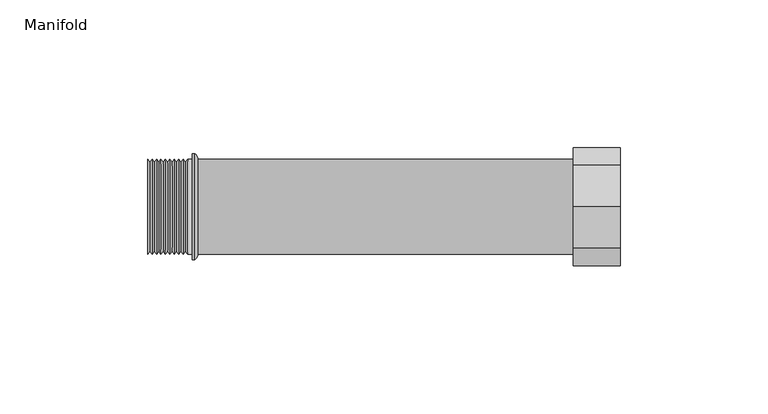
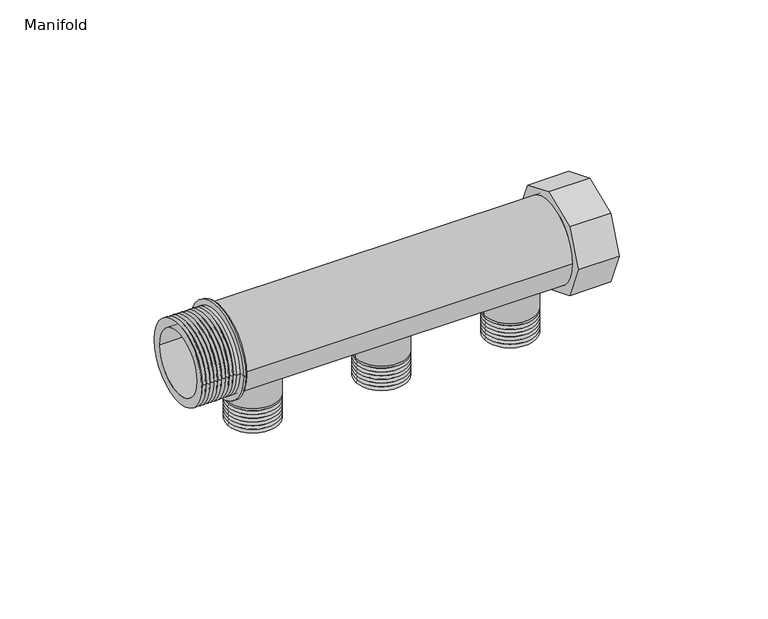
"""IFC4 building model written with IfcOpenShell, lengths in millimetres: valve geometry."""

from ifc_helpers import new_model, si_unit, point, frame, frame_2d, origin, origin_2d, place, context, project, spatial, polyline, circle_curve, ellipse_curve, trimmed, segment, composite_curve, outline, extrude, source, transform, mapped, element, save
from ifc_brep_helpers import plane_surface, cylinder_surface, revolved_surface, advanced_brep


def manifold_b658bd2c(model_context):
    return source(origin(), model_context, "Body", "SolidModel", [
        extrude(outline(composite_curve([segment(trimmed(circle_curve(frame_2d((129.0, 0.0)), 10.0), [point((119.0, 0.0))], [point((139.0, 0.0))], False, "CARTESIAN"), True, "CONTINUOUS"), segment(trimmed(circle_curve(frame_2d((129.0, 0.0)), 10.0), [point((139.0, 0.0))], [point((119.0, 0.0))], False, "CARTESIAN"), True, "CONTINUOUS")], self_intersect=False)), frame((0.0, 0.0, -22.0), z_axis=(0.0, 0.0, 1.0), x_axis=(1.0, 0.0, 0.0)), (0.0, 0.0, 1.0), 22.0),
        advanced_brep(
        [(119.0, 0.0, -32.0), (139.0, 0.0, -32.0), (129.0, 0.0, -32.0), (129.0, 0.0, -22.0), (139.0, 0.0, -22.0), (119.0, 0.0, -22.0), (120.0, 0.0, -31.2403523), (138.0, 0.0, -31.2403523), (119.0, 0.0, -30.4807046), (139.0, 0.0, -30.4807046), (120.0, 0.0, -29.721057), (138.0, 0.0, -29.721057), (119.0, 0.0, -28.9614093), (139.0, 0.0, -28.9614093), (120.0, 0.0, -28.2017616), (138.0, 0.0, -28.2017616), (119.0, 0.0, -27.4421139), (139.0, 0.0, -27.4421139), (120.0, 0.0, -26.6824663), (138.0, 0.0, -26.6824663), (119.0, 0.0, -25.9228186), (139.0, 0.0, -25.9228186), (120.0, 0.0, -25.1631709), (138.0, 0.0, -25.1631709), (119.0, 0.0, -24.4035232), (139.0, 0.0, -24.4035232), (120.0, 0.0, -23.6438756), (138.0, 0.0, -23.6438756), (119.0, 0.0, -22.8842279), (139.0, 0.0, -22.8842279)],
        [
            (0, 1, circle_curve(frame((129.0, 0.0, -32.0), z_axis=(0.0, 0.0, -1.0), x_axis=(1.0, 0.0, 0.0)), 10.0)),
            (1, 2),
            (2, 0),
            (1, 0, circle_curve(frame((129.0, 0.0, -32.0), z_axis=(0.0, 0.0, -1.0), x_axis=(1.0, 0.0, 0.0)), 10.0)),
            (3, 4),
            (4, 5, circle_curve(frame((129.0, 0.0, -22.0), z_axis=(0.0, 0.0, 1.0), x_axis=(1.0, 0.0, 0.0)), 10.0)),
            (5, 3),
            (5, 4, circle_curve(frame((129.0, 0.0, -22.0), z_axis=(0.0, 0.0, 1.0), x_axis=(1.0, 0.0, 0.0)), 10.0)),
            (6, 7, circle_curve(frame((129.0, 0.0, -31.2403523), z_axis=(0.0, 0.0, -1.0), x_axis=(1.0, 0.0, 0.0)), 9.0)),
            (7, 1),
            (0, 6),
            (7, 6, circle_curve(frame((129.0, 0.0, -31.2403523), z_axis=(0.0, 0.0, -1.0), x_axis=(1.0, 0.0, 0.0)), 9.0)),
            (8, 9, circle_curve(frame((129.0, 0.0, -30.4807046), z_axis=(0.0, 0.0, -1.0), x_axis=(1.0, 0.0, 0.0)), 10.0)),
            (9, 7),
            (6, 8),
            (9, 8, circle_curve(frame((129.0, 0.0, -30.4807046), z_axis=(0.0, 0.0, -1.0), x_axis=(1.0, 0.0, 0.0)), 10.0)),
            (10, 11, circle_curve(frame((129.0, 0.0, -29.721057), z_axis=(0.0, 0.0, -1.0), x_axis=(1.0, 0.0, 0.0)), 9.0)),
            (11, 9),
            (8, 10),
            (11, 10, circle_curve(frame((129.0, 0.0, -29.721057), z_axis=(0.0, 0.0, -1.0), x_axis=(1.0, 0.0, 0.0)), 9.0)),
            (12, 13, circle_curve(frame((129.0, 0.0, -28.9614093), z_axis=(0.0, 0.0, -1.0), x_axis=(1.0, 0.0, 0.0)), 10.0)),
            (13, 11),
            (10, 12),
            (13, 12, circle_curve(frame((129.0, 0.0, -28.9614093), z_axis=(0.0, 0.0, -1.0), x_axis=(1.0, 0.0, 0.0)), 10.0)),
            (14, 15, circle_curve(frame((129.0, 0.0, -28.2017616), z_axis=(0.0, 0.0, -1.0), x_axis=(1.0, 0.0, 0.0)), 9.0)),
            (15, 13),
            (12, 14),
            (15, 14, circle_curve(frame((129.0, 0.0, -28.2017616), z_axis=(0.0, 0.0, -1.0), x_axis=(1.0, 0.0, 0.0)), 9.0)),
            (16, 17, circle_curve(frame((129.0, 0.0, -27.4421139), z_axis=(0.0, 0.0, -1.0), x_axis=(1.0, 0.0, 0.0)), 10.0)),
            (17, 15),
            (14, 16),
            (17, 16, circle_curve(frame((129.0, 0.0, -27.4421139), z_axis=(0.0, 0.0, -1.0), x_axis=(1.0, 0.0, 0.0)), 10.0)),
            (18, 19, circle_curve(frame((129.0, 0.0, -26.6824663), z_axis=(0.0, 0.0, -1.0), x_axis=(1.0, 0.0, 0.0)), 9.0)),
            (19, 17),
            (16, 18),
            (19, 18, circle_curve(frame((129.0, 0.0, -26.6824663), z_axis=(0.0, 0.0, -1.0), x_axis=(1.0, 0.0, 0.0)), 9.0)),
            (20, 21, circle_curve(frame((129.0, 0.0, -25.9228186), z_axis=(0.0, 0.0, -1.0), x_axis=(1.0, 0.0, 0.0)), 10.0)),
            (21, 19),
            (18, 20),
            (21, 20, circle_curve(frame((129.0, 0.0, -25.9228186), z_axis=(0.0, 0.0, -1.0), x_axis=(1.0, 0.0, 0.0)), 10.0)),
            (22, 23, circle_curve(frame((129.0, 0.0, -25.1631709), z_axis=(0.0, 0.0, -1.0), x_axis=(1.0, 0.0, 0.0)), 9.0)),
            (23, 21),
            (20, 22),
            (23, 22, circle_curve(frame((129.0, 0.0, -25.1631709), z_axis=(0.0, 0.0, -1.0), x_axis=(1.0, 0.0, 0.0)), 9.0)),
            (24, 25, circle_curve(frame((129.0, 0.0, -24.4035232), z_axis=(0.0, 0.0, -1.0), x_axis=(1.0, 0.0, 0.0)), 10.0)),
            (25, 23),
            (22, 24),
            (25, 24, circle_curve(frame((129.0, 0.0, -24.4035232), z_axis=(0.0, 0.0, -1.0), x_axis=(1.0, 0.0, 0.0)), 10.0)),
            (26, 27, circle_curve(frame((129.0, 0.0, -23.6438756), z_axis=(0.0, 0.0, -1.0), x_axis=(1.0, 0.0, 0.0)), 9.0)),
            (27, 25),
            (24, 26),
            (27, 26, circle_curve(frame((129.0, 0.0, -23.6438756), z_axis=(0.0, 0.0, -1.0), x_axis=(1.0, 0.0, 0.0)), 9.0)),
            (28, 29, circle_curve(frame((129.0, 0.0, -22.8842279), z_axis=(0.0, 0.0, -1.0), x_axis=(1.0, 0.0, 0.0)), 10.0)),
            (29, 27),
            (26, 28),
            (29, 28, circle_curve(frame((129.0, 0.0, -22.8842279), z_axis=(0.0, 0.0, -1.0), x_axis=(1.0, 0.0, 0.0)), 10.0)),
            (4, 29),
            (28, 5),
        ],
        [
            plane_surface(frame((129.0, 0.0, -32.0), z_axis=(0.0, 0.0, -1.0), x_axis=(1.0, 0.0, 0.0))),
            plane_surface(frame((129.0, 0.0, -22.0), z_axis=(0.0, 0.0, 1.0), x_axis=(1.0, 0.0, 0.0))),
            revolved_surface(polyline([(139.0, 0.0, -32.0), (138.0, 0.0, -31.2403523)]), (129.0, 0.0, 2438.4), (0.0, 0.0, 1.0)),
            revolved_surface(polyline([(138.0, 0.0, -31.2403523), (139.0, 0.0, -30.4807046)]), (129.0, 0.0, 2438.4), (0.0, 0.0, 1.0)),
            revolved_surface(polyline([(139.0, 0.0, -30.4807046), (138.0, 0.0, -29.721057)]), (129.0, 0.0, 2438.4), (0.0, 0.0, 1.0)),
            revolved_surface(polyline([(138.0, 0.0, -29.721057), (139.0, 0.0, -28.9614093)]), (129.0, 0.0, 2438.4), (0.0, 0.0, 1.0)),
            revolved_surface(polyline([(139.0, 0.0, -28.9614093), (138.0, 0.0, -28.2017616)]), (129.0, 0.0, 2438.4), (0.0, 0.0, 1.0)),
            revolved_surface(polyline([(138.0, 0.0, -28.2017616), (139.0, 0.0, -27.4421139)]), (129.0, 0.0, 2438.4), (0.0, 0.0, 1.0)),
            revolved_surface(polyline([(139.0, 0.0, -27.4421139), (138.0, 0.0, -26.6824663)]), (129.0, 0.0, 2438.4), (0.0, 0.0, 1.0)),
            revolved_surface(polyline([(138.0, 0.0, -26.6824663), (139.0, 0.0, -25.9228186)]), (129.0, 0.0, 2438.4), (0.0, 0.0, 1.0)),
            revolved_surface(polyline([(139.0, 0.0, -25.9228186), (138.0, 0.0, -25.1631709)]), (129.0, 0.0, 2438.4), (0.0, 0.0, 1.0)),
            revolved_surface(polyline([(138.0, 0.0, -25.1631709), (139.0, 0.0, -24.4035232)]), (129.0, 0.0, 2438.4), (0.0, 0.0, 1.0)),
            revolved_surface(polyline([(139.0, 0.0, -24.4035232), (138.0, 0.0, -23.6438756)]), (129.0, 0.0, 2438.4), (0.0, 0.0, 1.0)),
            revolved_surface(polyline([(138.0, 0.0, -23.6438756), (139.0, 0.0, -22.8842279)]), (129.0, 0.0, 2438.4), (0.0, 0.0, 1.0)),
            cylinder_surface(frame((129.0, 0.0, 2438.4), z_axis=(0.0, 0.0, 1.0), x_axis=(1.0, 0.0, 0.0)), 10.0),
        ],
        [
            (0, [[1, 2, 3]]),
            (0, [[4, -3, -2]]),
            (1, [[5, 6, 7]]),
            (1, [[-7, 8, -5]]),
            (2, [[9, 10, -1, 11]]),
            (2, [[12, -11, -4, -10]]),
            (3, [[13, 14, -9, 15]]),
            (3, [[16, -15, -12, -14]]),
            (4, [[17, 18, -13, 19]]),
            (4, [[20, -19, -16, -18]]),
            (5, [[21, 22, -17, 23]]),
            (5, [[24, -23, -20, -22]]),
            (6, [[25, 26, -21, 27]]),
            (6, [[28, -27, -24, -26]]),
            (7, [[29, 30, -25, 31]]),
            (7, [[32, -31, -28, -30]]),
            (8, [[33, 34, -29, 35]]),
            (8, [[36, -35, -32, -34]]),
            (9, [[37, 38, -33, 39]]),
            (9, [[40, -39, -36, -38]]),
            (10, [[41, 42, -37, 43]]),
            (10, [[44, -43, -40, -42]]),
            (11, [[45, 46, -41, 47]]),
            (11, [[48, -47, -44, -46]]),
            (12, [[49, 50, -45, 51]]),
            (12, [[52, -51, -48, -50]]),
            (13, [[53, 54, -49, 55]]),
            (13, [[56, -55, -52, -54]]),
            (14, [[-6, 57, -53, 58]]),
            (14, [[-8, -58, -56, -57]]),
        ],
    ),
        extrude(outline(composite_curve([segment(trimmed(circle_curve(frame_2d((79.0, 0.0)), 10.0), [point((69.0, 0.0))], [point((89.0, 0.0))], False, "CARTESIAN"), True, "CONTINUOUS"), segment(trimmed(circle_curve(frame_2d((79.0, 0.0)), 10.0), [point((89.0, 0.0))], [point((69.0, 0.0))], False, "CARTESIAN"), True, "CONTINUOUS")], self_intersect=False)), frame((0.0, 0.0, -22.0), z_axis=(0.0, 0.0, 1.0), x_axis=(1.0, 0.0, 0.0)), (0.0, 0.0, 1.0), 22.0),
        advanced_brep(
        [(69.0, 0.0, -32.0), (89.0, 0.0, -32.0), (79.0, 0.0, -32.0), (79.0, 0.0, -22.0), (89.0, 0.0, -22.0), (69.0, 0.0, -22.0), (70.0, 0.0, -31.2403523), (88.0, 0.0, -31.2403523), (69.0, 0.0, -30.4807046), (89.0, 0.0, -30.4807046), (70.0, 0.0, -29.721057), (88.0, 0.0, -29.721057), (69.0, 0.0, -28.9614093), (89.0, 0.0, -28.9614093), (70.0, 0.0, -28.2017616), (88.0, 0.0, -28.2017616), (69.0, 0.0, -27.4421139), (89.0, 0.0, -27.4421139), (70.0, 0.0, -26.6824663), (88.0, 0.0, -26.6824663), (69.0, 0.0, -25.9228186), (89.0, 0.0, -25.9228186), (70.0, 0.0, -25.1631709), (88.0, 0.0, -25.1631709), (69.0, 0.0, -24.4035232), (89.0, 0.0, -24.4035232), (70.0, 0.0, -23.6438756), (88.0, 0.0, -23.6438756), (69.0, 0.0, -22.8842279), (89.0, 0.0, -22.8842279)],
        [
            (0, 1, circle_curve(frame((79.0, 0.0, -32.0), z_axis=(0.0, 0.0, -1.0), x_axis=(1.0, 0.0, 0.0)), 10.0)),
            (1, 2),
            (2, 0),
            (1, 0, circle_curve(frame((79.0, 0.0, -32.0), z_axis=(0.0, 0.0, -1.0), x_axis=(1.0, 0.0, 0.0)), 10.0)),
            (3, 4),
            (4, 5, circle_curve(frame((79.0, 0.0, -22.0), z_axis=(0.0, 0.0, 1.0), x_axis=(1.0, 0.0, 0.0)), 10.0)),
            (5, 3),
            (5, 4, circle_curve(frame((79.0, 0.0, -22.0), z_axis=(0.0, 0.0, 1.0), x_axis=(1.0, 0.0, 0.0)), 10.0)),
            (6, 7, circle_curve(frame((79.0, 0.0, -31.2403523), z_axis=(0.0, 0.0, -1.0), x_axis=(1.0, 0.0, 0.0)), 9.0)),
            (7, 1),
            (0, 6),
            (7, 6, circle_curve(frame((79.0, 0.0, -31.2403523), z_axis=(0.0, 0.0, -1.0), x_axis=(1.0, 0.0, 0.0)), 9.0)),
            (8, 9, circle_curve(frame((79.0, 0.0, -30.4807046), z_axis=(0.0, 0.0, -1.0), x_axis=(1.0, 0.0, 0.0)), 10.0)),
            (9, 7),
            (6, 8),
            (9, 8, circle_curve(frame((79.0, 0.0, -30.4807046), z_axis=(0.0, 0.0, -1.0), x_axis=(1.0, 0.0, 0.0)), 10.0)),
            (10, 11, circle_curve(frame((79.0, 0.0, -29.721057), z_axis=(0.0, 0.0, -1.0), x_axis=(1.0, 0.0, 0.0)), 9.0)),
            (11, 9),
            (8, 10),
            (11, 10, circle_curve(frame((79.0, 0.0, -29.721057), z_axis=(0.0, 0.0, -1.0), x_axis=(1.0, 0.0, 0.0)), 9.0)),
            (12, 13, circle_curve(frame((79.0, 0.0, -28.9614093), z_axis=(0.0, 0.0, -1.0), x_axis=(1.0, 0.0, 0.0)), 10.0)),
            (13, 11),
            (10, 12),
            (13, 12, circle_curve(frame((79.0, 0.0, -28.9614093), z_axis=(0.0, 0.0, -1.0), x_axis=(1.0, 0.0, 0.0)), 10.0)),
            (14, 15, circle_curve(frame((79.0, 0.0, -28.2017616), z_axis=(0.0, 0.0, -1.0), x_axis=(1.0, 0.0, 0.0)), 9.0)),
            (15, 13),
            (12, 14),
            (15, 14, circle_curve(frame((79.0, 0.0, -28.2017616), z_axis=(0.0, 0.0, -1.0), x_axis=(1.0, 0.0, 0.0)), 9.0)),
            (16, 17, circle_curve(frame((79.0, 0.0, -27.4421139), z_axis=(0.0, 0.0, -1.0), x_axis=(1.0, 0.0, 0.0)), 10.0)),
            (17, 15),
            (14, 16),
            (17, 16, circle_curve(frame((79.0, 0.0, -27.4421139), z_axis=(0.0, 0.0, -1.0), x_axis=(1.0, 0.0, 0.0)), 10.0)),
            (18, 19, circle_curve(frame((79.0, 0.0, -26.6824663), z_axis=(0.0, 0.0, -1.0), x_axis=(1.0, 0.0, 0.0)), 9.0)),
            (19, 17),
            (16, 18),
            (19, 18, circle_curve(frame((79.0, 0.0, -26.6824663), z_axis=(0.0, 0.0, -1.0), x_axis=(1.0, 0.0, 0.0)), 9.0)),
            (20, 21, circle_curve(frame((79.0, 0.0, -25.9228186), z_axis=(0.0, 0.0, -1.0), x_axis=(1.0, 0.0, 0.0)), 10.0)),
            (21, 19),
            (18, 20),
            (21, 20, circle_curve(frame((79.0, 0.0, -25.9228186), z_axis=(0.0, 0.0, -1.0), x_axis=(1.0, 0.0, 0.0)), 10.0)),
            (22, 23, circle_curve(frame((79.0, 0.0, -25.1631709), z_axis=(0.0, 0.0, -1.0), x_axis=(1.0, 0.0, 0.0)), 9.0)),
            (23, 21),
            (20, 22),
            (23, 22, circle_curve(frame((79.0, 0.0, -25.1631709), z_axis=(0.0, 0.0, -1.0), x_axis=(1.0, 0.0, 0.0)), 9.0)),
            (24, 25, circle_curve(frame((79.0, 0.0, -24.4035232), z_axis=(0.0, 0.0, -1.0), x_axis=(1.0, 0.0, 0.0)), 10.0)),
            (25, 23),
            (22, 24),
            (25, 24, circle_curve(frame((79.0, 0.0, -24.4035232), z_axis=(0.0, 0.0, -1.0), x_axis=(1.0, 0.0, 0.0)), 10.0)),
            (26, 27, circle_curve(frame((79.0, 0.0, -23.6438756), z_axis=(0.0, 0.0, -1.0), x_axis=(1.0, 0.0, 0.0)), 9.0)),
            (27, 25),
            (24, 26),
            (27, 26, circle_curve(frame((79.0, 0.0, -23.6438756), z_axis=(0.0, 0.0, -1.0), x_axis=(1.0, 0.0, 0.0)), 9.0)),
            (28, 29, circle_curve(frame((79.0, 0.0, -22.8842279), z_axis=(0.0, 0.0, -1.0), x_axis=(1.0, 0.0, 0.0)), 10.0)),
            (29, 27),
            (26, 28),
            (29, 28, circle_curve(frame((79.0, 0.0, -22.8842279), z_axis=(0.0, 0.0, -1.0), x_axis=(1.0, 0.0, 0.0)), 10.0)),
            (4, 29),
            (28, 5),
        ],
        [
            plane_surface(frame((79.0, 0.0, -32.0), z_axis=(0.0, 0.0, -1.0), x_axis=(1.0, 0.0, 0.0))),
            plane_surface(frame((79.0, 0.0, -22.0), z_axis=(0.0, 0.0, 1.0), x_axis=(1.0, 0.0, 0.0))),
            revolved_surface(polyline([(89.0, 0.0, -32.0), (88.0, 0.0, -31.2403523)]), (79.0, 0.0, 2438.4), (0.0, 0.0, 1.0)),
            revolved_surface(polyline([(88.0, 0.0, -31.2403523), (89.0, 0.0, -30.4807046)]), (79.0, 0.0, 2438.4), (0.0, 0.0, 1.0)),
            revolved_surface(polyline([(89.0, 0.0, -30.4807046), (88.0, 0.0, -29.721057)]), (79.0, 0.0, 2438.4), (0.0, 0.0, 1.0)),
            revolved_surface(polyline([(88.0, 0.0, -29.721057), (89.0, 0.0, -28.9614093)]), (79.0, 0.0, 2438.4), (0.0, 0.0, 1.0)),
            revolved_surface(polyline([(89.0, 0.0, -28.9614093), (88.0, 0.0, -28.2017616)]), (79.0, 0.0, 2438.4), (0.0, 0.0, 1.0)),
            revolved_surface(polyline([(88.0, 0.0, -28.2017616), (89.0, 0.0, -27.4421139)]), (79.0, 0.0, 2438.4), (0.0, 0.0, 1.0)),
            revolved_surface(polyline([(89.0, 0.0, -27.4421139), (88.0, 0.0, -26.6824663)]), (79.0, 0.0, 2438.4), (0.0, 0.0, 1.0)),
            revolved_surface(polyline([(88.0, 0.0, -26.6824663), (89.0, 0.0, -25.9228186)]), (79.0, 0.0, 2438.4), (0.0, 0.0, 1.0)),
            revolved_surface(polyline([(89.0, 0.0, -25.9228186), (88.0, 0.0, -25.1631709)]), (79.0, 0.0, 2438.4), (0.0, 0.0, 1.0)),
            revolved_surface(polyline([(88.0, 0.0, -25.1631709), (89.0, 0.0, -24.4035232)]), (79.0, 0.0, 2438.4), (0.0, 0.0, 1.0)),
            revolved_surface(polyline([(89.0, 0.0, -24.4035232), (88.0, 0.0, -23.6438756)]), (79.0, 0.0, 2438.4), (0.0, 0.0, 1.0)),
            revolved_surface(polyline([(88.0, 0.0, -23.6438756), (89.0, 0.0, -22.8842279)]), (79.0, 0.0, 2438.4), (0.0, 0.0, 1.0)),
            cylinder_surface(frame((79.0, 0.0, 2438.4), z_axis=(0.0, 0.0, 1.0), x_axis=(1.0, 0.0, 0.0)), 10.0),
        ],
        [
            (0, [[1, 2, 3]]),
            (0, [[4, -3, -2]]),
            (1, [[5, 6, 7]]),
            (1, [[-7, 8, -5]]),
            (2, [[9, 10, -1, 11]]),
            (2, [[12, -11, -4, -10]]),
            (3, [[13, 14, -9, 15]]),
            (3, [[16, -15, -12, -14]]),
            (4, [[17, 18, -13, 19]]),
            (4, [[20, -19, -16, -18]]),
            (5, [[21, 22, -17, 23]]),
            (5, [[24, -23, -20, -22]]),
            (6, [[25, 26, -21, 27]]),
            (6, [[28, -27, -24, -26]]),
            (7, [[29, 30, -25, 31]]),
            (7, [[32, -31, -28, -30]]),
            (8, [[33, 34, -29, 35]]),
            (8, [[36, -35, -32, -34]]),
            (9, [[37, 38, -33, 39]]),
            (9, [[40, -39, -36, -38]]),
            (10, [[41, 42, -37, 43]]),
            (10, [[44, -43, -40, -42]]),
            (11, [[45, 46, -41, 47]]),
            (11, [[48, -47, -44, -46]]),
            (12, [[49, 50, -45, 51]]),
            (12, [[52, -51, -48, -50]]),
            (13, [[53, 54, -49, 55]]),
            (13, [[56, -55, -52, -54]]),
            (14, [[-6, 57, -53, 58]]),
            (14, [[-8, -58, -56, -57]]),
        ],
    ),
        extrude(outline(composite_curve([segment(trimmed(circle_curve(frame_2d((29.0, 0.0)), 10.0), [point((19.0, 0.0))], [point((39.0, 0.0))], False, "CARTESIAN"), True, "CONTINUOUS"), segment(trimmed(circle_curve(frame_2d((29.0, 0.0)), 10.0), [point((39.0, 0.0))], [point((19.0, 0.0))], False, "CARTESIAN"), True, "CONTINUOUS")], self_intersect=False)), frame((0.0, 0.0, -22.0), z_axis=(0.0, 0.0, 1.0), x_axis=(1.0, 0.0, 0.0)), (0.0, 0.0, 1.0), 22.0),
        advanced_brep(
        [(19.0, 0.0, -32.0), (39.0, 0.0, -32.0), (29.0, 0.0, -32.0), (29.0, 0.0, -22.0), (39.0, 0.0, -22.0), (19.0, 0.0, -22.0), (20.0, 0.0, -31.2403523), (38.0, 0.0, -31.2403523), (19.0, 0.0, -30.4807046), (39.0, 0.0, -30.4807046), (20.0, 0.0, -29.721057), (38.0, 0.0, -29.721057), (19.0, 0.0, -28.9614093), (39.0, 0.0, -28.9614093), (20.0, 0.0, -28.2017616), (38.0, 0.0, -28.2017616), (19.0, 0.0, -27.4421139), (39.0, 0.0, -27.4421139), (20.0, 0.0, -26.6824663), (38.0, 0.0, -26.6824663), (19.0, 0.0, -25.9228186), (39.0, 0.0, -25.9228186), (20.0, 0.0, -25.1631709), (38.0, 0.0, -25.1631709), (19.0, 0.0, -24.4035232), (39.0, 0.0, -24.4035232), (20.0, 0.0, -23.6438756), (38.0, 0.0, -23.6438756), (19.0, 0.0, -22.8842279), (39.0, 0.0, -22.8842279)],
        [
            (0, 1, circle_curve(frame((29.0, 0.0, -32.0), z_axis=(0.0, 0.0, -1.0), x_axis=(1.0, 0.0, 0.0)), 10.0)),
            (1, 2),
            (2, 0),
            (1, 0, circle_curve(frame((29.0, 0.0, -32.0), z_axis=(0.0, 0.0, -1.0), x_axis=(1.0, 0.0, 0.0)), 10.0)),
            (3, 4),
            (4, 5, circle_curve(frame((29.0, 0.0, -22.0), z_axis=(0.0, 0.0, 1.0), x_axis=(1.0, 0.0, 0.0)), 10.0)),
            (5, 3),
            (5, 4, circle_curve(frame((29.0, 0.0, -22.0), z_axis=(0.0, 0.0, 1.0), x_axis=(1.0, 0.0, 0.0)), 10.0)),
            (6, 7, circle_curve(frame((29.0, 0.0, -31.2403523), z_axis=(0.0, 0.0, -1.0), x_axis=(1.0, 0.0, 0.0)), 9.0)),
            (7, 1),
            (0, 6),
            (7, 6, circle_curve(frame((29.0, 0.0, -31.2403523), z_axis=(0.0, 0.0, -1.0), x_axis=(1.0, 0.0, 0.0)), 9.0)),
            (8, 9, circle_curve(frame((29.0, 0.0, -30.4807046), z_axis=(0.0, 0.0, -1.0), x_axis=(1.0, 0.0, 0.0)), 10.0)),
            (9, 7),
            (6, 8),
            (9, 8, circle_curve(frame((29.0, 0.0, -30.4807046), z_axis=(0.0, 0.0, -1.0), x_axis=(1.0, 0.0, 0.0)), 10.0)),
            (10, 11, circle_curve(frame((29.0, 0.0, -29.721057), z_axis=(0.0, 0.0, -1.0), x_axis=(1.0, 0.0, 0.0)), 9.0)),
            (11, 9),
            (8, 10),
            (11, 10, circle_curve(frame((29.0, 0.0, -29.721057), z_axis=(0.0, 0.0, -1.0), x_axis=(1.0, 0.0, 0.0)), 9.0)),
            (12, 13, circle_curve(frame((29.0, 0.0, -28.9614093), z_axis=(0.0, 0.0, -1.0), x_axis=(1.0, 0.0, 0.0)), 10.0)),
            (13, 11),
            (10, 12),
            (13, 12, circle_curve(frame((29.0, 0.0, -28.9614093), z_axis=(0.0, 0.0, -1.0), x_axis=(1.0, 0.0, 0.0)), 10.0)),
            (14, 15, circle_curve(frame((29.0, 0.0, -28.2017616), z_axis=(0.0, 0.0, -1.0), x_axis=(1.0, 0.0, 0.0)), 9.0)),
            (15, 13),
            (12, 14),
            (15, 14, circle_curve(frame((29.0, 0.0, -28.2017616), z_axis=(0.0, 0.0, -1.0), x_axis=(1.0, 0.0, 0.0)), 9.0)),
            (16, 17, circle_curve(frame((29.0, 0.0, -27.4421139), z_axis=(0.0, 0.0, -1.0), x_axis=(1.0, 0.0, 0.0)), 10.0)),
            (17, 15),
            (14, 16),
            (17, 16, circle_curve(frame((29.0, 0.0, -27.4421139), z_axis=(0.0, 0.0, -1.0), x_axis=(1.0, 0.0, 0.0)), 10.0)),
            (18, 19, circle_curve(frame((29.0, 0.0, -26.6824663), z_axis=(0.0, 0.0, -1.0), x_axis=(1.0, 0.0, 0.0)), 9.0)),
            (19, 17),
            (16, 18),
            (19, 18, circle_curve(frame((29.0, 0.0, -26.6824663), z_axis=(0.0, 0.0, -1.0), x_axis=(1.0, 0.0, 0.0)), 9.0)),
            (20, 21, circle_curve(frame((29.0, 0.0, -25.9228186), z_axis=(0.0, 0.0, -1.0), x_axis=(1.0, 0.0, 0.0)), 10.0)),
            (21, 19),
            (18, 20),
            (21, 20, circle_curve(frame((29.0, 0.0, -25.9228186), z_axis=(0.0, 0.0, -1.0), x_axis=(1.0, 0.0, 0.0)), 10.0)),
            (22, 23, circle_curve(frame((29.0, 0.0, -25.1631709), z_axis=(0.0, 0.0, -1.0), x_axis=(1.0, 0.0, 0.0)), 9.0)),
            (23, 21),
            (20, 22),
            (23, 22, circle_curve(frame((29.0, 0.0, -25.1631709), z_axis=(0.0, 0.0, -1.0), x_axis=(1.0, 0.0, 0.0)), 9.0)),
            (24, 25, circle_curve(frame((29.0, 0.0, -24.4035232), z_axis=(0.0, 0.0, -1.0), x_axis=(1.0, 0.0, 0.0)), 10.0)),
            (25, 23),
            (22, 24),
            (25, 24, circle_curve(frame((29.0, 0.0, -24.4035232), z_axis=(0.0, 0.0, -1.0), x_axis=(1.0, 0.0, 0.0)), 10.0)),
            (26, 27, circle_curve(frame((29.0, 0.0, -23.6438756), z_axis=(0.0, 0.0, -1.0), x_axis=(1.0, 0.0, 0.0)), 9.0)),
            (27, 25),
            (24, 26),
            (27, 26, circle_curve(frame((29.0, 0.0, -23.6438756), z_axis=(0.0, 0.0, -1.0), x_axis=(1.0, 0.0, 0.0)), 9.0)),
            (28, 29, circle_curve(frame((29.0, 0.0, -22.8842279), z_axis=(0.0, 0.0, -1.0), x_axis=(1.0, 0.0, 0.0)), 10.0)),
            (29, 27),
            (26, 28),
            (29, 28, circle_curve(frame((29.0, 0.0, -22.8842279), z_axis=(0.0, 0.0, -1.0), x_axis=(1.0, 0.0, 0.0)), 10.0)),
            (4, 29),
            (28, 5),
        ],
        [
            plane_surface(frame((29.0, 0.0, -32.0), z_axis=(0.0, 0.0, -1.0), x_axis=(1.0, 0.0, 0.0))),
            plane_surface(frame((29.0, 0.0, -22.0), z_axis=(0.0, 0.0, 1.0), x_axis=(1.0, 0.0, 0.0))),
            revolved_surface(polyline([(39.0, 0.0, -32.0), (38.0, 0.0, -31.2403523)]), (29.0, 0.0, 2438.4), (0.0, 0.0, 1.0)),
            revolved_surface(polyline([(38.0, 0.0, -31.2403523), (39.0, 0.0, -30.4807046)]), (29.0, 0.0, 2438.4), (0.0, 0.0, 1.0)),
            revolved_surface(polyline([(39.0, 0.0, -30.4807046), (38.0, 0.0, -29.721057)]), (29.0, 0.0, 2438.4), (0.0, 0.0, 1.0)),
            revolved_surface(polyline([(38.0, 0.0, -29.721057), (39.0, 0.0, -28.9614093)]), (29.0, 0.0, 2438.4), (0.0, 0.0, 1.0)),
            revolved_surface(polyline([(39.0, 0.0, -28.9614093), (38.0, 0.0, -28.2017616)]), (29.0, 0.0, 2438.4), (0.0, 0.0, 1.0)),
            revolved_surface(polyline([(38.0, 0.0, -28.2017616), (39.0, 0.0, -27.4421139)]), (29.0, 0.0, 2438.4), (0.0, 0.0, 1.0)),
            revolved_surface(polyline([(39.0, 0.0, -27.4421139), (38.0, 0.0, -26.6824663)]), (29.0, 0.0, 2438.4), (0.0, 0.0, 1.0)),
            revolved_surface(polyline([(38.0, 0.0, -26.6824663), (39.0, 0.0, -25.9228186)]), (29.0, 0.0, 2438.4), (0.0, 0.0, 1.0)),
            revolved_surface(polyline([(39.0, 0.0, -25.9228186), (38.0, 0.0, -25.1631709)]), (29.0, 0.0, 2438.4), (0.0, 0.0, 1.0)),
            revolved_surface(polyline([(38.0, 0.0, -25.1631709), (39.0, 0.0, -24.4035232)]), (29.0, 0.0, 2438.4), (0.0, 0.0, 1.0)),
            revolved_surface(polyline([(39.0, 0.0, -24.4035232), (38.0, 0.0, -23.6438756)]), (29.0, 0.0, 2438.4), (0.0, 0.0, 1.0)),
            revolved_surface(polyline([(38.0, 0.0, -23.6438756), (39.0, 0.0, -22.8842279)]), (29.0, 0.0, 2438.4), (0.0, 0.0, 1.0)),
            cylinder_surface(frame((29.0, 0.0, 2438.4), z_axis=(0.0, 0.0, 1.0), x_axis=(1.0, 0.0, 0.0)), 10.0),
        ],
        [
            (0, [[1, 2, 3]]),
            (0, [[4, -3, -2]]),
            (1, [[5, 6, 7]]),
            (1, [[-7, 8, -5]]),
            (2, [[9, 10, -1, 11]]),
            (2, [[12, -11, -4, -10]]),
            (3, [[13, 14, -9, 15]]),
            (3, [[16, -15, -12, -14]]),
            (4, [[17, 18, -13, 19]]),
            (4, [[20, -19, -16, -18]]),
            (5, [[21, 22, -17, 23]]),
            (5, [[24, -23, -20, -22]]),
            (6, [[25, 26, -21, 27]]),
            (6, [[28, -27, -24, -26]]),
            (7, [[29, 30, -25, 31]]),
            (7, [[32, -31, -28, -30]]),
            (8, [[33, 34, -29, 35]]),
            (8, [[36, -35, -32, -34]]),
            (9, [[37, 38, -33, 39]]),
            (9, [[40, -39, -36, -38]]),
            (10, [[41, 42, -37, 43]]),
            (10, [[44, -43, -40, -42]]),
            (11, [[45, 46, -41, 47]]),
            (11, [[48, -47, -44, -46]]),
            (12, [[49, 50, -45, 51]]),
            (12, [[52, -51, -48, -50]]),
            (13, [[53, 54, -49, 55]]),
            (13, [[56, -55, -52, -54]]),
            (14, [[-6, 57, -53, 58]]),
            (14, [[-8, -58, -56, -57]]),
        ],
    ),
        advanced_brep(
        [(15.0, 0.0, 0.0), (15.0, 18.0, 0.0), (15.0, -18.0, 0.0), (17.0, -16.0, 0.0), (17.0, 16.0, 0.0), (17.0, 0.0, 0.0), (16.0, -18.0, 0.0), (16.0, 18.0, 0.0)],
        [
            (0, 1),
            (1, 2, circle_curve(frame((15.0, 0.0, 0.0), z_axis=(-1.0, 0.0, 0.0), x_axis=(0.0, 1.0, 0.0)), 18.0)),
            (2, 0),
            (2, 1, circle_curve(frame((15.0, 0.0, 0.0), z_axis=(-1.0, 0.0, 0.0), x_axis=(0.0, 1.0, 0.0)), 18.0)),
            (3, 4, circle_curve(frame((17.0, 0.0, 0.0), z_axis=(1.0, 0.0, 0.0), x_axis=(0.0, 1.0, 0.0)), 16.0)),
            (4, 5),
            (5, 3),
            (4, 3, circle_curve(frame((17.0, 0.0, 0.0), z_axis=(1.0, 0.0, 0.0), x_axis=(0.0, 1.0, 0.0)), 16.0)),
            (6, 7, circle_curve(frame((16.0, 0.0, 0.0), z_axis=(1.0, 0.0, 0.0), x_axis=(0.0, 1.0, 0.0)), 18.0)),
            (7, 4, circle_curve(frame((14.5, 16.0, 0.0), z_axis=(0.0, 0.0, -1.0), x_axis=(1.0, 0.0, 0.0)), 2.5)),
            (3, 6, circle_curve(frame((14.5, -16.0, 0.0), z_axis=(0.0, 0.0, -1.0), x_axis=(1.0, 0.0, 0.0)), 2.5)),
            (7, 6, circle_curve(frame((16.0, 0.0, 0.0), z_axis=(1.0, 0.0, 0.0), x_axis=(0.0, 1.0, 0.0)), 18.0)),
            (1, 7),
            (6, 2),
        ],
        [
            plane_surface(frame((15.0, 0.0, 0.0), z_axis=(-1.0, 0.0, 0.0), x_axis=(0.0, 1.0, 0.0))),
            plane_surface(frame((17.0, 0.0, 0.0), z_axis=(1.0, 0.0, 0.0), x_axis=(0.0, 1.0, 0.0))),
            revolved_surface(trimmed(ellipse_curve(frame((14.5, 16.0, 0.0), z_axis=(0.0, 0.0, 1.0), x_axis=(1.0, 0.0, 0.0)), 2.5, 2.5), [point((17.0, 16.0, 0.0))], [point((16.0, 18.0, 0.0))], True, "CARTESIAN"), (1995.0, 0.0, 0.0), (-1.0, 0.0, 0.0)),
            cylinder_surface(frame((1995.0, 0.0, 0.0), z_axis=(-1.0, 0.0, 0.0), x_axis=(0.0, 1.0, 0.0)), 18.0),
        ],
        [
            (0, [[1, 2, 3]]),
            (0, [[-3, 4, -1]]),
            (1, [[5, 6, 7]]),
            (1, [[8, -7, -6]]),
            (2, [[9, 10, -5, 11]]),
            (2, [[12, -11, -8, -10]]),
            (3, [[-2, 13, -9, 14]]),
            (3, [[-4, -14, -12, -13]]),
        ],
    ),
        extrude(outline(polyline([(14.1345348, 14.1350965), (19.9895913, -0.0002604), (14.1345348, -14.1356172), (-0.000822, -19.9906737), (-14.1361789, -14.1356172), (-19.9912354, -0.0002604), (-14.1361789, 14.1350965), (-0.000822, 19.990153), (14.1345348, 14.1350965)]), holes=[composite_curve([segment(trimmed(circle_curve(origin_2d(), 16.0), [point((16.0, 0.0))], [point((-16.0, 0.0))], True, "CARTESIAN"), True, "CONTINUOUS"), segment(trimmed(circle_curve(origin_2d(), 16.0), [point((-16.0, 0.0))], [point((16.0, 0.0))], True, "CARTESIAN"), True, "CONTINUOUS")], self_intersect=False)]), frame((144.0, 0.0, 0.0), z_axis=(1.0, 0.0, 0.0), x_axis=(0.0, 1.0, 0.0)), (0.0, 0.0, 1.0), 16.0),
        advanced_brep(
        [(15.0, -16.0, 0.0), (15.0, 16.0, 0.0), (15.0, -12.5, 0.0), (15.0, 12.5, 0.0), (0.0, 16.0, 0.0), (0.0, -16.0, 0.0), (0.0, -12.5, 0.0), (0.0, 12.5, 0.0), (13.5, -16.0, 0.0), (13.5, 16.0, 0.0), (0.75, -15.0, 0.0), (0.75, 15.0, 0.0), (1.5, 16.0, 0.0), (1.5, -16.0, 0.0), (2.25, -15.0, 0.0), (2.25, 15.0, 0.0), (3.0, 16.0, 0.0), (3.0, -16.0, 0.0), (3.75, -15.0, 0.0), (3.75, 15.0, 0.0), (4.5, 16.0, 0.0), (4.5, -16.0, 0.0), (5.25, -15.0, 0.0), (5.25, 15.0, 0.0), (6.0, 16.0, 0.0), (6.0, -16.0, 0.0), (6.75, -15.0, 0.0), (6.75, 15.0, 0.0), (7.5, 16.0, 0.0), (7.5, -16.0, 0.0), (8.25, -15.0, 0.0), (8.25, 15.0, 0.0), (9.0, 16.0, 0.0), (9.0, -16.0, 0.0), (9.75, -15.0, 0.0), (9.75, 15.0, 0.0), (10.5, 16.0, 0.0), (10.5, -16.0, 0.0), (11.25, -15.0, 0.0), (11.25, 15.0, 0.0), (12.0, 16.0, 0.0), (12.0, -16.0, 0.0), (12.75, -15.0, 0.0), (12.75, 15.0, 0.0)],
        [
            (0, 1, circle_curve(frame((15.0, 0.0, 0.0), z_axis=(1.0, 0.0, 0.0), x_axis=(0.0, 1.0, 0.0)), 16.0)),
            (1, 0, circle_curve(frame((15.0, 0.0, 0.0), z_axis=(1.0, 0.0, 0.0), x_axis=(0.0, 1.0, 0.0)), 16.0)),
            (2, 3, circle_curve(frame((15.0, 0.0, 0.0), z_axis=(-1.0, 0.0, 0.0), x_axis=(0.0, 1.0, 0.0)), 12.5)),
            (3, 2, circle_curve(frame((15.0, 0.0, 0.0), z_axis=(-1.0, 0.0, 0.0), x_axis=(0.0, 1.0, 0.0)), 12.5)),
            (4, 5, circle_curve(frame((0.0, 0.0, 0.0), z_axis=(-1.0, 0.0, 0.0), x_axis=(0.0, 1.0, 0.0)), 16.0)),
            (5, 4, circle_curve(frame((0.0, 0.0, 0.0), z_axis=(-1.0, 0.0, 0.0), x_axis=(0.0, 1.0, 0.0)), 16.0)),
            (6, 7, circle_curve(frame((0.0, 0.0, 0.0), z_axis=(1.0, 0.0, 0.0), x_axis=(0.0, 1.0, 0.0)), 12.5)),
            (7, 6, circle_curve(frame((0.0, 0.0, 0.0), z_axis=(1.0, 0.0, 0.0), x_axis=(0.0, 1.0, 0.0)), 12.5)),
            (0, 8),
            (8, 9, circle_curve(frame((13.5, 0.0, 0.0), z_axis=(1.0, 0.0, 0.0), x_axis=(0.0, 1.0, 0.0)), 16.0)),
            (9, 1),
            (9, 8, circle_curve(frame((13.5, 0.0, 0.0), z_axis=(1.0, 0.0, 0.0), x_axis=(0.0, 1.0, 0.0)), 16.0)),
            (2, 6),
            (7, 3),
            (10, 5),
            (4, 11),
            (11, 10, circle_curve(frame((0.75, 0.0, 0.0), z_axis=(-1.0, 0.0, 0.0), x_axis=(0.0, 1.0, 0.0)), 15.0)),
            (10, 11, circle_curve(frame((0.75, 0.0, 0.0), z_axis=(-1.0, 0.0, 0.0), x_axis=(0.0, 1.0, 0.0)), 15.0)),
            (11, 12),
            (12, 13, circle_curve(frame((1.5, 0.0, 0.0), z_axis=(-1.0, 0.0, 0.0), x_axis=(0.0, 1.0, 0.0)), 16.0)),
            (13, 10),
            (13, 12, circle_curve(frame((1.5, 0.0, 0.0), z_axis=(-1.0, 0.0, 0.0), x_axis=(0.0, 1.0, 0.0)), 16.0)),
            (14, 13),
            (12, 15),
            (15, 14, circle_curve(frame((2.25, 0.0, 0.0), z_axis=(-1.0, 0.0, 0.0), x_axis=(0.0, 1.0, 0.0)), 15.0)),
            (14, 15, circle_curve(frame((2.25, 0.0, 0.0), z_axis=(-1.0, 0.0, 0.0), x_axis=(0.0, 1.0, 0.0)), 15.0)),
            (15, 16),
            (16, 17, circle_curve(frame((3.0, 0.0, 0.0), z_axis=(-1.0, 0.0, 0.0), x_axis=(0.0, 1.0, 0.0)), 16.0)),
            (17, 14),
            (17, 16, circle_curve(frame((3.0, 0.0, 0.0), z_axis=(-1.0, 0.0, 0.0), x_axis=(0.0, 1.0, 0.0)), 16.0)),
            (18, 17),
            (16, 19),
            (19, 18, circle_curve(frame((3.75, 0.0, 0.0), z_axis=(-1.0, 0.0, 0.0), x_axis=(0.0, 1.0, 0.0)), 15.0)),
            (18, 19, circle_curve(frame((3.75, 0.0, 0.0), z_axis=(-1.0, 0.0, 0.0), x_axis=(0.0, 1.0, 0.0)), 15.0)),
            (19, 20),
            (20, 21, circle_curve(frame((4.5, 0.0, 0.0), z_axis=(-1.0, 0.0, 0.0), x_axis=(0.0, 1.0, 0.0)), 16.0)),
            (21, 18),
            (21, 20, circle_curve(frame((4.5, 0.0, 0.0), z_axis=(-1.0, 0.0, 0.0), x_axis=(0.0, 1.0, 0.0)), 16.0)),
            (22, 21),
            (20, 23),
            (23, 22, circle_curve(frame((5.25, 0.0, 0.0), z_axis=(-1.0, 0.0, 0.0), x_axis=(0.0, 1.0, 0.0)), 15.0)),
            (22, 23, circle_curve(frame((5.25, 0.0, 0.0), z_axis=(-1.0, 0.0, 0.0), x_axis=(0.0, 1.0, 0.0)), 15.0)),
            (23, 24),
            (24, 25, circle_curve(frame((6.0, 0.0, 0.0), z_axis=(-1.0, 0.0, 0.0), x_axis=(0.0, 1.0, 0.0)), 16.0)),
            (25, 22),
            (25, 24, circle_curve(frame((6.0, 0.0, 0.0), z_axis=(-1.0, 0.0, 0.0), x_axis=(0.0, 1.0, 0.0)), 16.0)),
            (26, 25),
            (24, 27),
            (27, 26, circle_curve(frame((6.75, 0.0, 0.0), z_axis=(-1.0, 0.0, 0.0), x_axis=(0.0, 1.0, 0.0)), 15.0)),
            (26, 27, circle_curve(frame((6.75, 0.0, 0.0), z_axis=(-1.0, 0.0, 0.0), x_axis=(0.0, 1.0, 0.0)), 15.0)),
            (27, 28),
            (28, 29, circle_curve(frame((7.5, 0.0, 0.0), z_axis=(-1.0, 0.0, 0.0), x_axis=(0.0, 1.0, 0.0)), 16.0)),
            (29, 26),
            (29, 28, circle_curve(frame((7.5, 0.0, 0.0), z_axis=(-1.0, 0.0, 0.0), x_axis=(0.0, 1.0, 0.0)), 16.0)),
            (30, 29),
            (28, 31),
            (31, 30, circle_curve(frame((8.25, 0.0, 0.0), z_axis=(-1.0, 0.0, 0.0), x_axis=(0.0, 1.0, 0.0)), 15.0)),
            (30, 31, circle_curve(frame((8.25, 0.0, 0.0), z_axis=(-1.0, 0.0, 0.0), x_axis=(0.0, 1.0, 0.0)), 15.0)),
            (31, 32),
            (32, 33, circle_curve(frame((9.0, 0.0, 0.0), z_axis=(-1.0, 0.0, 0.0), x_axis=(0.0, 1.0, 0.0)), 16.0)),
            (33, 30),
            (33, 32, circle_curve(frame((9.0, 0.0, 0.0), z_axis=(-1.0, 0.0, 0.0), x_axis=(0.0, 1.0, 0.0)), 16.0)),
            (34, 33),
            (32, 35),
            (35, 34, circle_curve(frame((9.75, 0.0, 0.0), z_axis=(-1.0, 0.0, 0.0), x_axis=(0.0, 1.0, 0.0)), 15.0)),
            (34, 35, circle_curve(frame((9.75, 0.0, 0.0), z_axis=(-1.0, 0.0, 0.0), x_axis=(0.0, 1.0, 0.0)), 15.0)),
            (35, 36),
            (36, 37, circle_curve(frame((10.5, 0.0, 0.0), z_axis=(-1.0, 0.0, 0.0), x_axis=(0.0, 1.0, 0.0)), 16.0)),
            (37, 34),
            (37, 36, circle_curve(frame((10.5, 0.0, 0.0), z_axis=(-1.0, 0.0, 0.0), x_axis=(0.0, 1.0, 0.0)), 16.0)),
            (38, 37),
            (36, 39),
            (39, 38, circle_curve(frame((11.25, 0.0, 0.0), z_axis=(-1.0, 0.0, 0.0), x_axis=(0.0, 1.0, 0.0)), 15.0)),
            (38, 39, circle_curve(frame((11.25, 0.0, 0.0), z_axis=(-1.0, 0.0, 0.0), x_axis=(0.0, 1.0, 0.0)), 15.0)),
            (39, 40),
            (40, 41, circle_curve(frame((12.0, 0.0, 0.0), z_axis=(-1.0, 0.0, 0.0), x_axis=(0.0, 1.0, 0.0)), 16.0)),
            (41, 38),
            (41, 40, circle_curve(frame((12.0, 0.0, 0.0), z_axis=(-1.0, 0.0, 0.0), x_axis=(0.0, 1.0, 0.0)), 16.0)),
            (42, 41),
            (40, 43),
            (43, 42, circle_curve(frame((12.75, 0.0, 0.0), z_axis=(-1.0, 0.0, 0.0), x_axis=(0.0, 1.0, 0.0)), 15.0)),
            (42, 43, circle_curve(frame((12.75, 0.0, 0.0), z_axis=(-1.0, 0.0, 0.0), x_axis=(0.0, 1.0, 0.0)), 15.0)),
            (43, 9),
            (8, 42),
        ],
        [
            plane_surface(frame((15.0, 16.0, 0.0), z_axis=(1.0, 0.0, 0.0), x_axis=(0.0, 0.0, 1.0))),
            plane_surface(frame((0.0, 16.0, 0.0), z_axis=(-1.0, 0.0, 0.0), x_axis=(0.0, 0.0, -1.0))),
            cylinder_surface(frame((0.0, 0.0, 0.0), z_axis=(1.0, 0.0, 0.0), x_axis=(0.0, 1.0, 0.0)), 16.0),
            revolved_surface(polyline([(0.0, 12.5, 0.0), (15.0, 12.5, 0.0)]), (0.0, 0.0, 0.0), (-1.0, 0.0, 0.0)),
            revolved_surface(polyline([(0.75, 15.0, 0.0), (0.0, 16.0, 0.0)]), (2000.0, 0.0, 0.0), (-1.0, 0.0, 0.0)),
            revolved_surface(polyline([(1.5, 16.0, 0.0), (0.75, 15.0, 0.0)]), (2000.0, 0.0, 0.0), (-1.0, 0.0, 0.0)),
            revolved_surface(polyline([(2.25, 15.0, 0.0), (1.5, 16.0, 0.0)]), (2001.5, 0.0, 0.0), (-1.0, 0.0, 0.0)),
            revolved_surface(polyline([(3.0, 16.0, 0.0), (2.25, 15.0, 0.0)]), (2001.5, 0.0, 0.0), (-1.0, 0.0, 0.0)),
            revolved_surface(polyline([(3.75, 15.0, 0.0), (3.0, 16.0, 0.0)]), (2003.0, 0.0, 0.0), (-1.0, 0.0, 0.0)),
            revolved_surface(polyline([(4.5, 16.0, 0.0), (3.75, 15.0, 0.0)]), (2003.0, 0.0, 0.0), (-1.0, 0.0, 0.0)),
            revolved_surface(polyline([(5.25, 15.0, 0.0), (4.5, 16.0, 0.0)]), (2004.5, 0.0, 0.0), (-1.0, 0.0, 0.0)),
            revolved_surface(polyline([(6.0, 16.0, 0.0), (5.25, 15.0, 0.0)]), (2004.5, 0.0, 0.0), (-1.0, 0.0, 0.0)),
            revolved_surface(polyline([(6.75, 15.0, 0.0), (6.0, 16.0, 0.0)]), (2006.0, 0.0, 0.0), (-1.0, 0.0, 0.0)),
            revolved_surface(polyline([(7.5, 16.0, 0.0), (6.75, 15.0, 0.0)]), (2006.0, 0.0, 0.0), (-1.0, 0.0, 0.0)),
            revolved_surface(polyline([(8.25, 15.0, 0.0), (7.5, 16.0, 0.0)]), (2007.5, 0.0, 0.0), (-1.0, 0.0, 0.0)),
            revolved_surface(polyline([(9.0, 16.0, 0.0), (8.25, 15.0, 0.0)]), (2007.5, 0.0, 0.0), (-1.0, 0.0, 0.0)),
            revolved_surface(polyline([(9.75, 15.0, 0.0), (9.0, 16.0, 0.0)]), (2009.0, 0.0, 0.0), (-1.0, 0.0, 0.0)),
            revolved_surface(polyline([(10.5, 16.0, 0.0), (9.75, 15.0, 0.0)]), (2009.0, 0.0, 0.0), (-1.0, 0.0, 0.0)),
            revolved_surface(polyline([(11.25, 15.0, 0.0), (10.5, 16.0, 0.0)]), (2010.5, 0.0, 0.0), (-1.0, 0.0, 0.0)),
            revolved_surface(polyline([(12.0, 16.0, 0.0), (11.25, 15.0, 0.0)]), (2010.5, 0.0, 0.0), (-1.0, 0.0, 0.0)),
            revolved_surface(polyline([(12.75, 15.0, 0.0), (12.0, 16.0, 0.0)]), (2012.0, 0.0, 0.0), (-1.0, 0.0, 0.0)),
            revolved_surface(polyline([(13.5, 16.0, 0.0), (12.75, 15.0, 0.0)]), (2012.0, 0.0, 0.0), (-1.0, 0.0, 0.0)),
        ],
        [
            (0, [[1, 2], [3, 4]]),
            (1, [[5, 6], [7, 8]]),
            (2, [[-1, 9, 10, 11]]),
            (2, [[-2, -11, 12, -9]]),
            (3, [[-3, 13, -8, 14]]),
            (3, [[-4, -14, -7, -13]]),
            (4, [[15, -5, 16, 17]]),
            (4, [[-15, 18, -16, -6]]),
            (5, [[-17, 19, 20, 21]]),
            (5, [[-18, -21, 22, -19]]),
            (6, [[23, -20, 24, 25]]),
            (6, [[-23, 26, -24, -22]]),
            (7, [[-25, 27, 28, 29]]),
            (7, [[-26, -29, 30, -27]]),
            (8, [[31, -28, 32, 33]]),
            (8, [[-31, 34, -32, -30]]),
            (9, [[-33, 35, 36, 37]]),
            (9, [[-34, -37, 38, -35]]),
            (10, [[39, -36, 40, 41]]),
            (10, [[-39, 42, -40, -38]]),
            (11, [[-41, 43, 44, 45]]),
            (11, [[-42, -45, 46, -43]]),
            (12, [[47, -44, 48, 49]]),
            (12, [[-47, 50, -48, -46]]),
            (13, [[-49, 51, 52, 53]]),
            (13, [[-50, -53, 54, -51]]),
            (14, [[55, -52, 56, 57]]),
            (14, [[-55, 58, -56, -54]]),
            (15, [[-57, 59, 60, 61]]),
            (15, [[-58, -61, 62, -59]]),
            (16, [[63, -60, 64, 65]]),
            (16, [[-63, 66, -64, -62]]),
            (17, [[-65, 67, 68, 69]]),
            (17, [[-66, -69, 70, -67]]),
            (18, [[71, -68, 72, 73]]),
            (18, [[-71, 74, -72, -70]]),
            (19, [[-73, 75, 76, 77]]),
            (19, [[-74, -77, 78, -75]]),
            (20, [[79, -76, 80, 81]]),
            (20, [[-79, 82, -80, -78]]),
            (21, [[-81, 83, -10, 84]]),
            (21, [[-82, -84, -12, -83]]),
        ],
    ),
        extrude(outline(composite_curve([segment(trimmed(circle_curve(origin_2d(), 16.0), [point((-16.0, 0.0))], [point((16.0, 0.0))], False, "CARTESIAN"), True, "CONTINUOUS"), segment(trimmed(circle_curve(origin_2d(), 16.0), [point((16.0, 0.0))], [point((-16.0, 0.0))], False, "CARTESIAN"), True, "CONTINUOUS")], self_intersect=False)), frame((15.0, 0.0, 0.0), z_axis=(1.0, 0.0, 0.0), x_axis=(0.0, 1.0, 0.0)), (0.0, 0.0, 1.0), 129.0),
    ])


if __name__ == "__main__":
    model = new_model("IFC4")
    model_context = context("Model", 3, world=origin())
    ifc_project = project(units=[si_unit("LENGTHUNIT", "METRE", prefix="MILLI")], contexts=[model_context])
    site = spatial("IfcSite", under=ifc_project)
    building = spatial("IfcBuilding", under=site)
    placement = place(None, origin())
    manifold_shape = manifold_b658bd2c(model_context)
    element("IfcValve", 1, ObjectType="Manifold : Superpipe Manifold 3 way- 1\"MT/FT x 1/2\"MT Outlets", at=placement, inside=building, context=model_context, shape_type="MappedRepresentation", body=[
        mapped(manifold_shape, transform((0.0, 0.0, 0.0), x_axis=(1.0, 0.0, 0.0), y_axis=(0.0, 1.0, 0.0), z_axis=(0.0, 0.0, 1.0))),
    ])
    save(model, "model.ifc")
